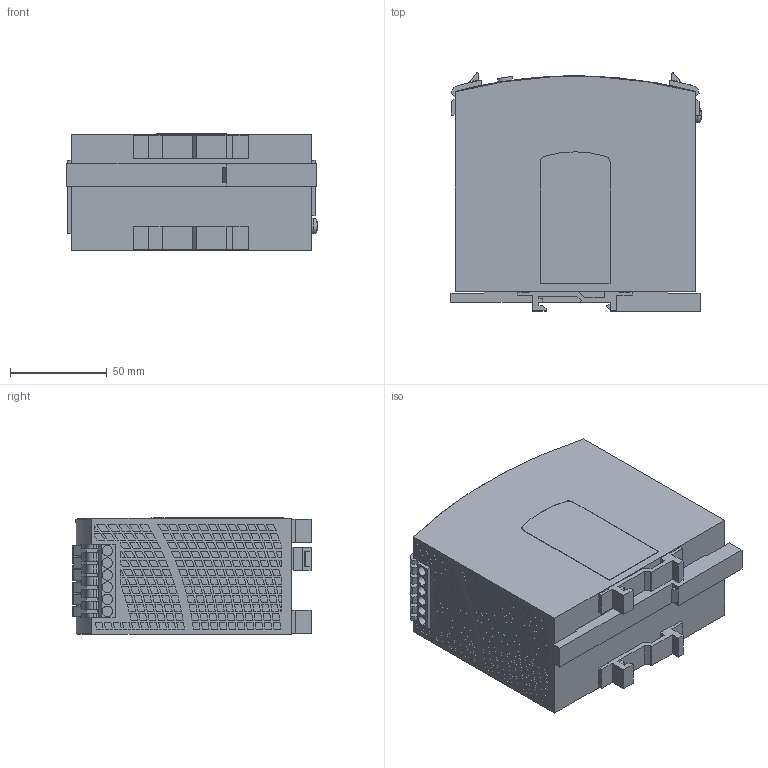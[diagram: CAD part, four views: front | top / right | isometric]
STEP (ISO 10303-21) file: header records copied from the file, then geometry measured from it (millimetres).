
FILE_DESCRIPTION((''),'2;1');
FILE_NAME('1606-XLS240E_SW0001','2007-03-27T',('abschult'),('Rockwell Automation'),'PRO/ENGINEER BY PARAMETRIC TECHNOLOGY CORPORATION, 2004320','PRO/ENGINEER BY PARAMETRIC TECHNOLOGY CORPORATION, 2004320','');
FILE_SCHEMA(('CONFIG_CONTROL_DESIGN'));
Length unit declared in the file: millimetre
Products named in the file (1): 1606-XLS240E_SW0001
Bounding box: 129.12 x 123.02 x 60.25 mm (x, y, z)
Surface area: 66345.4 mm2 (no closed solid volume)
Topology: 0 solids, 1 shells, 2419 faces, 6023 edges, 4009 vertices
Faces by surface type: plane 1938, cylinder 479, torus 2
Entity records: 71484 total; most frequent: CARTESIAN_POINT 12634, ORIENTED_EDGE 11904, DIRECTION 11857, EDGE_CURVE 6023, VECTOR 4975, LINE 4975, VERTEX_POINT 4009, AXIS2_PLACEMENT_3D 3441
